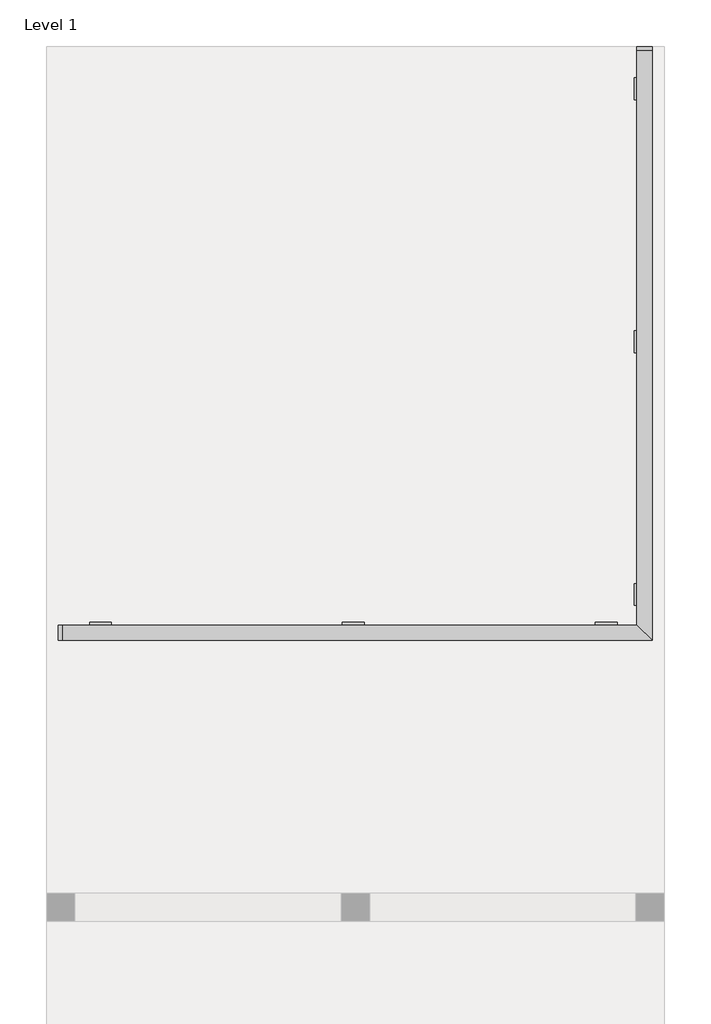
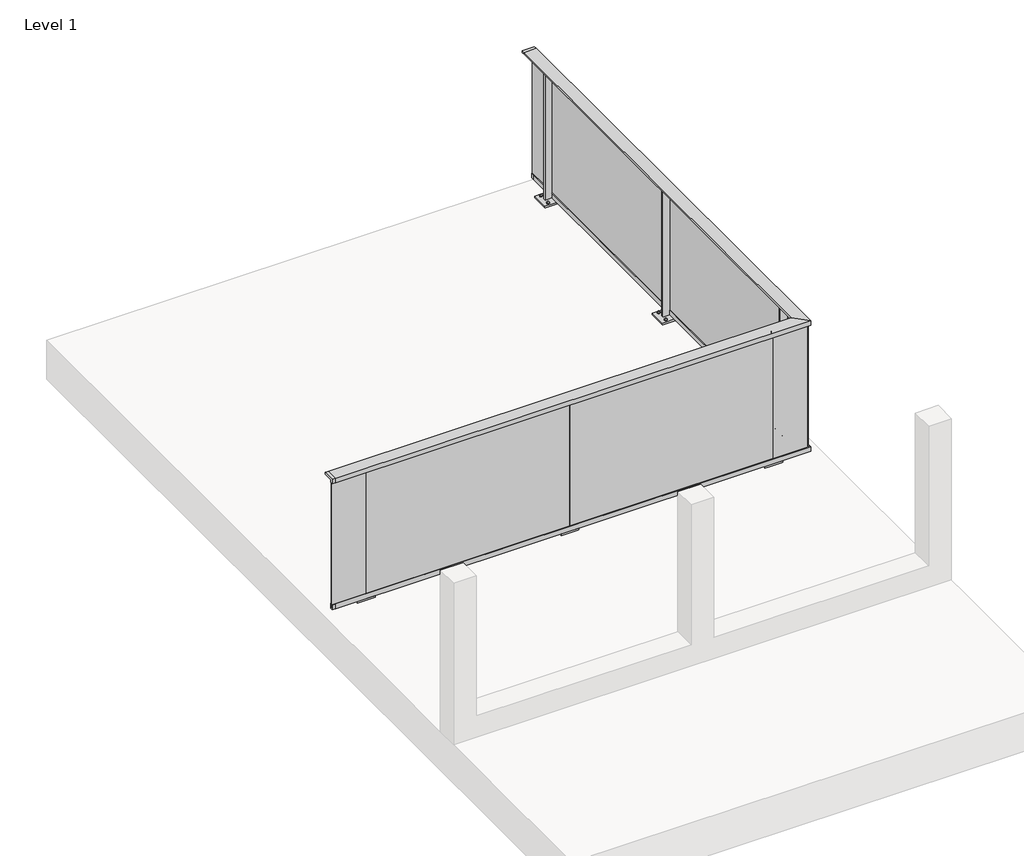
# One storey, part 2 of 2: 1 railing.
"""IFC4 building model written with IfcOpenShell, lengths in millimetres."""

import ifcopenshell
import ifcopenshell.guid

model = None  # the IFC model being written
_history = None  # IfcOwnerHistory: only IFC2X3 demands one
_inside = {}  # id of a spatial element -> (the spatial element, [elements in it])
_under = {}  # id of a project, library or spatial element -> (it, [spatial elements below it])
_declared = {}  # id of a project -> (the project, [libraries it declares])
_typed = {}  # id of a type object -> (the type object, [elements of that type])
_made_of = {}  # id of a material, layer set ... -> (it, [elements and type objects made of it])


def new_model(schema):
    """Start an empty IFC model of exactly this schema.

    Asked for "IFC4X3", IfcOpenShell would pick the latest addendum, in which some entities
    have other attributes; the version numbers below select the first issue.
    IFC2X3 requires an IfcOwnerHistory on every rooted entity: one is made here for all.
    """
    global model, _history
    if schema == "IFC4X3":
        model = ifcopenshell.file(schema_version=(4, 3, 0, 0))
    else:
        model = ifcopenshell.file(schema=schema)
    _inside.clear()
    _under.clear()
    _declared.clear()
    _typed.clear()
    _made_of.clear()
    _history = None
    if model.schema == "IFC2X3":
        org = make("IfcOrganization", Name="unknown")
        user = make(
            "IfcPersonAndOrganization",
            ThePerson=make("IfcPerson", FamilyName="unknown"),
            TheOrganization=org,
        )
        app = make(
            "IfcApplication",
            ApplicationDeveloper=org,
            Version="unknown",
            ApplicationFullName="unknown",
            ApplicationIdentifier="unknown",
        )
        _history = make(
            "IfcOwnerHistory",
            OwningUser=user,
            OwningApplication=app,
            ChangeAction="ADDED",
            CreationDate=0,
        )
    return model


def make(cls, **values):
    """One entity of the class cls with the attributes given. An attribute that is None is left unset."""
    return model.create_entity(
        cls, **{name: value for name, value in values.items() if value is not None}
    )


def rooted(cls, **values):
    """An entity with a GlobalId (a new one), such as an element, a storey or a relation."""
    return make(cls, GlobalId=ifcopenshell.guid.new(), OwnerHistory=_history, **values)


def si_unit(unit_type, name, prefix=None):
    """IfcSIUnit, for example si_unit("LENGTHUNIT", "METRE", prefix="MILLI")."""
    return make("IfcSIUnit", UnitType=unit_type, Prefix=prefix, Name=name)


def assignment(units):
    """IfcUnitAssignment: the units of a project."""
    return None if units is None else make("IfcUnitAssignment", Units=units)


def point(xyz):
    """IfcCartesianPoint."""
    return None if xyz is None else make("IfcCartesianPoint", Coordinates=xyz)


def direction(xyz):
    """IfcDirection."""
    return None if xyz is None else make("IfcDirection", DirectionRatios=xyz)


def frame(location, z_axis=None, x_axis=None):
    """IfcAxis2Placement3D, a coordinate frame: its origin and axes. An axis left out is left unset."""
    return make(
        "IfcAxis2Placement3D",
        Location=point(location),
        Axis=direction(z_axis),
        RefDirection=direction(x_axis),
    )


def frame_2d(location, x_axis=None):
    """IfcAxis2Placement2D, a coordinate frame in the plane: its origin and x axis."""
    return make(
        "IfcAxis2Placement2D", Location=point(location), RefDirection=direction(x_axis)
    )


def origin():
    """The frame at (0, 0, 0) with its axes left unset."""
    return frame((0.0, 0.0, 0.0))


def origin_with_axes():
    """The frame at (0, 0, 0) with the z axis (0, 0, 1) and the x axis (1, 0, 0) written out."""
    return frame((0.0, 0.0, 0.0), z_axis=(0.0, 0.0, 1.0), x_axis=(1.0, 0.0, 0.0))


def place(relative_to, where):
    """IfcLocalPlacement: puts the frame where relative to a parent placement (None: the world)."""
    return make(
        "IfcLocalPlacement", PlacementRelTo=relative_to, RelativePlacement=where
    )


def context(
    kind, dimensions, precision=None, world=None, true_north=None, identifier=None
):
    """IfcGeometricRepresentationContext, for example the 3D "Model" context."""
    return make(
        "IfcGeometricRepresentationContext",
        ContextIdentifier=identifier,
        ContextType=kind,
        CoordinateSpaceDimension=dimensions,
        Precision=precision,
        WorldCoordinateSystem=world,
        TrueNorth=true_north,
    )


def project(units=None, contexts=None):
    """IfcProject with its units and contexts."""
    return rooted(
        "IfcProject",
        Name="project",
        RepresentationContexts=contexts,
        UnitsInContext=assignment(units),
    )


def spatial(cls, under=None, at=None, **own):
    """A site, building, storey or space (cls), placed at a placement, below another one or the project."""
    s = rooted(cls, ObjectPlacement=at, **own)
    if under is not None:
        _under.setdefault(under.id(), (under, []))[1].append(s)
    return s


def polyline(points):
    """IfcPolyline through the points."""
    return make("IfcPolyline", Points=[point(p) for p in points])


def circle_curve(where, radius):
    """IfcCircle in the frame where."""
    return make("IfcCircle", Position=where, Radius=radius)


def ellipse_curve(where, semi_axis1, semi_axis2):
    """IfcEllipse in the frame where."""
    return make(
        "IfcEllipse", Position=where, SemiAxis1=semi_axis1, SemiAxis2=semi_axis2
    )


def trimmed(basis, trim1, trim2, sense, master):
    """IfcTrimmedCurve: the piece of a basis curve between two trims."""
    return make(
        "IfcTrimmedCurve",
        BasisCurve=basis,
        Trim1=trim1,
        Trim2=trim2,
        SenseAgreement=sense,
        MasterRepresentation=master,
    )


def segment(curve, same_sense, transition):
    """IfcCompositeCurveSegment."""
    return make(
        "IfcCompositeCurveSegment",
        Transition=transition,
        SameSense=same_sense,
        ParentCurve=curve,
    )


def composite_curve(segments, self_intersect=None):
    """IfcCompositeCurve: segments joined end to end."""
    return make("IfcCompositeCurve", Segments=segments, SelfIntersect=self_intersect)


def outline(outer, holes=None, kind="AREA"):
    """IfcArbitraryClosedProfileDef: a profile drawn as a closed curve; with holes, ...WithVoids."""
    if holes is None:
        return make("IfcArbitraryClosedProfileDef", ProfileType=kind, OuterCurve=outer)
    return make(
        "IfcArbitraryProfileDefWithVoids",
        ProfileType=kind,
        OuterCurve=outer,
        InnerCurves=holes,
    )


def extrude(swept, where, along, depth):
    """IfcExtrudedAreaSolid: the profile swept, set in the frame where, extruded along a direction by depth."""
    return make(
        "IfcExtrudedAreaSolid",
        SweptArea=swept,
        Position=where,
        ExtrudedDirection=direction(along),
        Depth=depth,
    )


def faces_of(points, faces, orient=None, outer=None):
    """IfcFace entities. A face is a list of loops; a loop is a list of indices into points, from 0.

    orient and outer hold one flag for each loop. By default every Orientation is true, the
    first loop of a face is its IfcFaceOuterBound and the others are IfcFaceBound.
    """
    made = []
    for i, loops in enumerate(faces):
        bounds = []
        for j, loop in enumerate(loops):
            is_outer = j == 0 if outer is None else outer[i][j]
            bounds.append(
                make(
                    "IfcFaceOuterBound" if is_outer else "IfcFaceBound",
                    Bound=make("IfcPolyLoop", Polygon=[points[k] for k in loop]),
                    Orientation=True if orient is None else orient[i][j],
                )
            )
        made.append(make("IfcFace", Bounds=bounds))
    return made


def faceted_brep(points, faces, orient=None, outer=None, voids=None):
    """IfcFacetedBrep: a solid bounded by flat faces; with voids (closed shells), ...WithVoids."""
    shared = [point(p) for p in points]
    hull = make("IfcClosedShell", CfsFaces=faces_of(shared, faces, orient, outer))
    if voids is None:
        return make("IfcFacetedBrep", Outer=hull)
    return make(
        "IfcFacetedBrepWithVoids",
        Outer=hull,
        Voids=[
            make(cls, CfsFaces=faces_of(shared, fs, o, b)) for cls, fs, o, b in voids
        ],
    )


def shape(context_of_items, identifier, shape_type, items):
    """IfcShapeRepresentation: the items that make up one representation, for example the "Body"."""
    return make(
        "IfcShapeRepresentation",
        ContextOfItems=context_of_items,
        RepresentationIdentifier=identifier,
        RepresentationType=shape_type,
        Items=items,
    )


def made_of(thing, what):
    """Note that an element or type object is made of a material, layer set ...; save() writes the relation."""
    if what is not None:
        _made_of.setdefault(what.id(), (what, []))[1].append(thing)
    return thing


def element(
    cls,
    number,
    at=None,
    inside=None,
    cuts=None,
    type_object=None,
    material=None,
    context=None,
    identifier="Body",
    shape_type=None,
    held_by="IfcProductDefinitionShape",
    body=None,
    shapes=None,
    **own,
):
    """One element of the class cls, such as IfcWall. Its Tag is "e" and its number.

    at: its placement. inside: the storey or other place that contains it. cuts: it is an
    opening in that element (IfcRelVoidsElement). A single representation is given by context,
    identifier, shape_type and body (its items); several are given by shapes. held_by: the class
    of the entity that holds the representations. save() writes the other relations.
    """
    e = rooted(cls, Tag="e%d" % number, ObjectPlacement=at, **own)
    if body is not None:
        shapes = [shape(context, identifier, shape_type, body)]
    if shapes is not None:
        e.Representation = make(held_by, Representations=shapes)
    if inside is not None:
        _inside.setdefault(inside.id(), (inside, []))[1].append(e)
    if cuts is not None:
        rooted(
            "IfcRelVoidsElement", RelatingBuildingElement=cuts, RelatedOpeningElement=e
        )
    if type_object is not None:
        _typed.setdefault(type_object.id(), (type_object, []))[1].append(e)
    return made_of(e, material)


def aggregate(whole, parts):
    """IfcRelAggregates: a whole, such as a stair, and the parts it consists of."""
    return rooted("IfcRelAggregates", RelatingObject=whole, RelatedObjects=parts)


def save(model, path):
    """Write the relations noted so far, then the file.

    IfcRelAggregates (storeys below a building ...), IfcRelContainedInSpatialStructure (elements
    in a storey), IfcRelDefinesByType, IfcRelAssociatesMaterial and IfcRelDeclares: one each for
    every whole, place, type object, material and project.
    """
    for whole, parts in _under.values():
        aggregate(whole, parts)
    for where, things in _inside.values():
        rooted(
            "IfcRelContainedInSpatialStructure",
            RelatedElements=things,
            RelatingStructure=where,
        )
    for kind, things in _typed.values():
        rooted("IfcRelDefinesByType", RelatedObjects=things, RelatingType=kind)
    for what, things in _made_of.values():
        rooted("IfcRelAssociatesMaterial", RelatedObjects=things, RelatingMaterial=what)
    for by, libraries in _declared.values():
        rooted("IfcRelDeclares", RelatingContext=by, RelatedDefinitions=libraries)
    model.write(path)


def plane_surface(at):
    """IfcPlane: the flat surface through the origin of the frame at, square to its z axis."""
    return make("IfcPlane", Position=at)


def revolved_surface(curve, axis_point, axis_direction):
    """IfcSurfaceOfRevolution: the curve turned about the line through axis_point along axis_direction."""
    return make(
        "IfcSurfaceOfRevolution",
        SweptCurve=make("IfcArbitraryOpenProfileDef", ProfileType="CURVE", Curve=curve),
        AxisPosition=make("IfcAxis1Placement", Location=point(axis_point), Axis=direction(axis_direction)),
    )


def advanced_brep(points, edges, surfaces, faces):
    """IfcAdvancedBrep: a solid bounded by faces that lie on surfaces and meet in shared edges.

    An edge is (start, end): straight between two places in points (the first is 0);
    or (start, end, curve); or (start, end, curve, False) where it runs against its curve.
    A face is (place in surfaces, loops), or (place, loops, False) where it looks against
    its surface's normal. A loop lists edges by number (the first is 1), with a minus sign
    where the edge is run from its end to its start. The first loop is the outer one.
    """
    corners = [point(p) for p in points]
    vertices = [make("IfcVertexPoint", VertexGeometry=c) for c in corners]
    made = []
    for start, end, *more in edges:
        made.append(
            make(
                "IfcEdgeCurve",
                EdgeStart=vertices[start],
                EdgeEnd=vertices[end],
                EdgeGeometry=more[0] if more else make("IfcPolyline", Points=[corners[start], corners[end]]),
                SameSense=more[1] if len(more) > 1 else True,
            )
        )
    hull = []
    for where, loops, *sense in faces:
        bounds = []
        for j, loop in enumerate(loops):
            ring = [make("IfcOrientedEdge", EdgeElement=made[abs(k) - 1], Orientation=k > 0) for k in loop]
            bounds.append(
                make(
                    "IfcFaceOuterBound" if j == 0 else "IfcFaceBound",
                    Bound=make("IfcEdgeLoop", EdgeList=ring),
                    Orientation=True,
                )
            )
        hull.append(make("IfcAdvancedFace", Bounds=bounds, FaceSurface=surfaces[where], SameSense=sense[0] if sense else True))
    return make("IfcAdvancedBrep", Outer=make("IfcClosedShell", CfsFaces=hull))


model = new_model("IFC4")

# Units and contexts
model_context = context("Model", 3, world=origin())
ifc_project = project(units=[si_unit("LENGTHUNIT", "METRE", prefix="MILLI")], contexts=[model_context])

# Site, building, storey
site = spatial("IfcSite", under=ifc_project)
building = spatial("IfcBuilding", under=site)
storey = spatial("IfcBuildingStorey", under=building, Name="Level 1", Elevation=0.0)

# Railing
placement = place(None, origin())
element("IfcRailing", 1, ObjectType="Klair Garde-Corps - Pose Sur Dalle", at=placement, inside=storey, context=model_context, shape_type="SolidModel", body=[
    faceted_brep([(-13856.6075858, 4901.5410088, 15.0), (-13856.6075858, 4921.5410088, 15.0), (-10381.0075858, 4921.5410088, 15.0), (-10361.0075858, 4901.5410088, 15.0), (-13856.6075858, 4901.5410088, 52.0), (-10361.0075858, 4901.5410088, 52.0), (-13856.6075858, 4906.5410088, 52.0), (-10366.0075858, 4906.5410088, 52.0), (-13856.6075858, 4906.5410088, 29.0), (-10366.0075858, 4906.5410088, 29.0), (-13856.6075858, 4916.5410088, 29.0), (-10376.0075858, 4916.5410088, 29.0), (-13856.6075858, 4916.5410088, 52.0), (-10376.0075858, 4916.5410088, 52.0), (-13856.6075858, 4921.5410088, 52.0), (-10381.0075858, 4921.5410088, 52.0), (-10381.0075858, 8397.1410088, 15.0), (-10361.0075858, 8397.1410088, 15.0), (-10361.0075858, 8397.1410088, 52.0), (-10366.0075858, 8397.1410088, 52.0), (-10366.0075858, 8397.1410088, 29.0), (-10376.0075858, 8397.1410088, 29.0), (-10376.0075858, 8397.1410088, 52.0), (-10381.0075858, 8397.1410088, 52.0), (-13881.6075858, 4921.5410088, 15.0), (-13881.6075858, 4901.5410088, 15.0), (-13881.6075858, 4901.5410088, 52.0), (-13881.6075858, 4906.5410088, 52.0), (-13881.6075858, 4906.5410088, 29.0), (-13881.6075858, 4916.5410088, 29.0), (-13881.6075858, 4916.5410088, 52.0), (-13881.6075858, 4921.5410088, 52.0), (-10381.0075858, 8422.1410088, 15.0), (-10381.0075858, 8422.1410088, 52.0), (-10376.0075858, 8422.1410088, 52.0), (-10376.0075858, 8422.1410088, 29.0), (-10366.0075858, 8422.1410088, 29.0), (-10366.0075858, 8422.1410088, 52.0), (-10361.0075858, 8422.1410088, 52.0), (-10361.0075858, 8422.1410088, 15.0)], [[[0, 1, 2, 3]], [[4, 0, 3, 5]], [[6, 4, 5, 7]], [[8, 6, 7, 9]], [[10, 8, 9, 11]], [[12, 10, 11, 13]], [[14, 12, 13, 15]], [[1, 14, 15, 2]], [[3, 2, 16, 17]], [[5, 3, 17, 18]], [[7, 5, 18, 19]], [[9, 7, 19, 20]], [[11, 9, 20, 21]], [[13, 11, 21, 22]], [[15, 13, 22, 23]], [[2, 15, 23, 16]], [[24, 25, 26, 27, 28, 29, 30, 31]], [[25, 24, 1, 0]], [[26, 25, 0, 4]], [[27, 26, 4, 6]], [[28, 27, 6, 8]], [[29, 28, 8, 10]], [[30, 29, 10, 12]], [[31, 30, 12, 14]], [[24, 31, 14, 1]], [[32, 33, 34, 35, 36, 37, 38, 39]], [[17, 16, 32, 39]], [[18, 17, 39, 38]], [[19, 18, 38, 37]], [[20, 19, 37, 36]], [[21, 20, 36, 35]], [[22, 21, 35, 34]], [[23, 22, 34, 33]], [[16, 23, 33, 32]]]),
    faceted_brep([(-13856.6075858, 4991.0410088, 1030.0), (-13856.6075858, 4901.0410088, 1030.0), (-10360.5075858, 4901.0410088, 1030.0), (-10450.5075858, 4991.0410088, 1030.0), (-13856.6075858, 4991.0410088, 1015.0), (-10450.5075858, 4991.0410088, 1015.0), (-13856.6075858, 4921.5410088, 1015.0), (-10381.0075858, 4921.5410088, 1015.0), (-13856.6075858, 4901.0410088, 996.0), (-10360.5075858, 4901.0410088, 996.0), (-13856.6075858, 4906.5410088, 996.0), (-10366.0075858, 4906.5410088, 996.0), (-13856.6075858, 4921.5410088, 996.0), (-10381.0075858, 4921.5410088, 996.0), (-13856.6075858, 4916.5410088, 996.0), (-10376.0075858, 4916.5410088, 996.0), (-13856.6075858, 4916.5410088, 1018.0), (-10376.0075858, 4916.5410088, 1018.0), (-13856.6075858, 4906.5410088, 1018.0), (-10366.0075858, 4906.5410088, 1018.0), (-10360.5075858, 8397.1410088, 1030.0), (-10450.5075858, 8397.1410088, 1030.0), (-10450.5075858, 8397.1410088, 1015.0), (-10381.0075858, 8397.1410088, 1015.0), (-10381.0075858, 8397.1410088, 996.0), (-10376.0075858, 8397.1410088, 996.0), (-10376.0075858, 8397.1410088, 1018.0), (-10366.0075858, 8397.1410088, 1018.0), (-10366.0075858, 8397.1410088, 996.0), (-10360.5075858, 8397.1410088, 996.0), (-13881.6075858, 4901.0410088, 1030.0), (-13881.6075858, 4991.0410088, 1030.0), (-13881.6075858, 4991.0410088, 1015.0), (-13881.6075858, 4921.5410088, 1015.0), (-13881.6075858, 4921.5410088, 996.0), (-13881.6075858, 4916.5410088, 996.0), (-13881.6075858, 4916.5410088, 1018.0), (-13881.6075858, 4906.5410088, 1018.0), (-13881.6075858, 4906.5410088, 996.0), (-13881.6075858, 4901.0410088, 996.0), (-10360.5075858, 8422.1410088, 1030.0), (-10360.5075858, 8422.1410088, 996.0), (-10366.0075858, 8422.1410088, 996.0), (-10366.0075858, 8422.1410088, 1018.0), (-10376.0075858, 8422.1410088, 1018.0), (-10376.0075858, 8422.1410088, 996.0), (-10381.0075858, 8422.1410088, 996.0), (-10381.0075858, 8422.1410088, 1015.0), (-10450.5075858, 8422.1410088, 1015.0), (-10450.5075858, 8422.1410088, 1030.0)], [[[0, 1, 2, 3]], [[4, 0, 3, 5]], [[6, 4, 5, 7]], [[1, 8, 9, 2]], [[8, 10, 11, 9]], [[12, 6, 7, 13]], [[14, 12, 13, 15]], [[16, 14, 15, 17]], [[18, 16, 17, 19]], [[10, 18, 19, 11]], [[3, 2, 20, 21]], [[5, 3, 21, 22]], [[7, 5, 22, 23]], [[13, 7, 23, 24]], [[15, 13, 24, 25]], [[17, 15, 25, 26]], [[19, 17, 26, 27]], [[11, 19, 27, 28]], [[9, 11, 28, 29]], [[2, 9, 29, 20]], [[30, 31, 32, 33, 34, 35, 36, 37, 38, 39]], [[31, 30, 1, 0]], [[32, 31, 0, 4]], [[33, 32, 4, 6]], [[34, 33, 6, 12]], [[35, 34, 12, 14]], [[36, 35, 14, 16]], [[37, 36, 16, 18]], [[38, 37, 18, 10]], [[39, 38, 10, 8]], [[30, 39, 8, 1]], [[40, 41, 42, 43, 44, 45, 46, 47, 48, 49]], [[21, 20, 40, 49]], [[22, 21, 49, 48]], [[23, 22, 48, 47]], [[24, 23, 47, 46]], [[25, 24, 46, 45]], [[26, 25, 45, 44]], [[27, 26, 44, 43]], [[28, 27, 43, 42]], [[29, 28, 42, 41]], [[20, 29, 41, 40]]]),
    extrude(outline(polyline([(-10365.9827757, 8172.1410088), (-10375.9827757, 8172.1410088), (-10375.9827757, 8422.1410088), (-10365.9827757, 8422.1410088), (-10365.9827757, 8172.1410088)])), frame((0.0, 0.0, 29.0), z_axis=(0.0, 0.0, 1.0), x_axis=(1.0, 0.0, 0.0)), (0.0, 0.0, 1.0), 967.0),
    extrude(outline(polyline([(-10365.9827757, 4922.1410088), (-10375.9827757, 4922.1410088), (-10375.9827757, 5172.1410088), (-10365.9827757, 5172.1410088), (-10365.9827757, 4922.1410088)])), frame((0.0, 0.0, 29.0), z_axis=(0.0, 0.0, 1.0), x_axis=(1.0, 0.0, 0.0)), (0.0, 0.0, 1.0), 967.0),
    advanced_brep(
    [(-10422.0163411, 8217.1410088, 20.0), (-10439.9988304, 8217.1410088, 20.0), (-10431.0075858, 8217.1410088, 20.0), (-10431.0075858, 8217.1410088, 28.9912446)],
    [
        (0, 1, circle_curve(frame((-10431.0075858, 8217.1410088, 20.0), z_axis=(0.0, 0.0, -1.0), x_axis=(-1.0, 0.0, 0.0)), 8.9912446)),
        (1, 2),
        (2, 0),
        (1, 0, circle_curve(frame((-10431.0075858, 8217.1410088, 20.0), z_axis=(0.0, 0.0, -1.0), x_axis=(-1.0, 0.0, 0.0)), 8.9912446)),
        (3, 1, circle_curve(frame((-10431.0075858, 8217.1410088, 20.0), z_axis=(0.0, -1.0, 0.0), x_axis=(1.0, 0.0, 0.0)), 8.9912446)),
        (0, 3, circle_curve(frame((-10431.0075858, 8217.1410088, 20.0), z_axis=(0.0, -1.0, 0.0), x_axis=(-1.0, 0.0, 0.0)), 8.9912446)),
    ],
    [
        plane_surface(frame((-10431.0075858, 8217.1410088, 20.0), z_axis=(0.0, 0.0, -1.0), x_axis=(-1.0, 0.0, 0.0))),
        revolved_surface(trimmed(ellipse_curve(frame((-10431.0075858, 8217.1410088, 20.0), z_axis=(0.0, 1.0, 0.0), x_axis=(1.0, 0.0, 0.0)), 8.9912446, 8.9912446), [point((-10439.9988304, 8217.1410088, 20.0))], [point((-10431.0075858, 8217.1410088, 28.9912446))], True, "CARTESIAN"), (-10431.0075858, 8217.1410088, 20.0), (0.0, 0.0, 1.0)),
    ],
    [
        (0, [[1, 2, 3]]),
        (0, [[4, -3, -2]]),
        (1, [[5, -1, 6]]),
        (1, [[-6, -4, -5]]),
    ],
),
    advanced_brep(
    [(-10431.0075858, 8127.1410088, 20.0), (-10439.9988304, 8127.1410088, 20.0), (-10422.0163411, 8127.1410088, 20.0), (-10431.0075858, 8127.1410088, 28.9912446)],
    [
        (0, 1),
        (1, 2, circle_curve(frame((-10431.0075858, 8127.1410088, 20.0), z_axis=(0.0, 0.0, -1.0), x_axis=(-1.0, 0.0, 0.0)), 8.9912446)),
        (2, 0),
        (2, 1, circle_curve(frame((-10431.0075858, 8127.1410088, 20.0), z_axis=(0.0, 0.0, -1.0), x_axis=(-1.0, 0.0, 0.0)), 8.9912446)),
        (1, 3, circle_curve(frame((-10431.0075858, 8127.1410088, 20.0), z_axis=(0.0, 1.0, 0.0), x_axis=(1.0, 0.0, 0.0)), 8.9912446)),
        (3, 2, circle_curve(frame((-10431.0075858, 8127.1410088, 20.0), z_axis=(0.0, 1.0, 0.0), x_axis=(-1.0, 0.0, 0.0)), 8.9912446)),
    ],
    [
        plane_surface(frame((-10431.0075858, 8127.1410088, 20.0), z_axis=(0.0, 0.0, -1.0), x_axis=(-1.0, 0.0, 0.0))),
        revolved_surface(trimmed(ellipse_curve(frame((-10431.0075858, 8127.1410088, 20.0), z_axis=(0.0, -1.0, 0.0), x_axis=(1.0, 0.0, 0.0)), 8.9912446, 8.9912446), [point((-10431.0075858, 8127.1410088, 28.9912446))], [point((-10439.9988304, 8127.1410088, 20.0))], True, "CARTESIAN"), (-10431.0075858, 8127.1410088, 20.0), (0.0, 0.0, -1.0)),
    ],
    [
        (0, [[1, 2, 3]]),
        (0, [[-3, 4, -1]]),
        (1, [[-2, 5, 6]]),
        (1, [[-4, -6, -5]]),
    ],
),
    extrude(outline(polyline([(-10438.1896667, 8119.9589279), (-10441.164582, 8127.1410088), (-10438.1896667, 8134.3230898), (-10431.0075858, 8137.2980051), (-10423.8255048, 8134.3230898), (-10420.8505895, 8127.1410088), (-10423.8255048, 8119.9589279), (-10431.0075858, 8116.9840126), (-10438.1896667, 8119.9589279)])), frame((0.0, 0.0, 15.0), z_axis=(0.0, 0.0, 1.0), x_axis=(1.0, 0.0, 0.0)), (0.0, 0.0, 1.0), 5.0),
    extrude(outline(polyline([(-10438.1896667, 8224.3230898), (-10431.0075858, 8227.2980051), (-10423.8255048, 8224.3230898), (-10420.8505895, 8217.1410088), (-10423.8255048, 8209.9589279), (-10431.0075858, 8206.9840126), (-10438.1896667, 8209.9589279), (-10441.164582, 8217.1410088), (-10438.1896667, 8224.3230898)])), frame((0.0, 0.0, 15.0), z_axis=(0.0, 0.0, 1.0), x_axis=(1.0, 0.0, 0.0)), (0.0, 0.0, 1.0), 5.0),
    extrude(outline(polyline([(-10361.0075858, 8237.1410088), (-10361.0075858, 8107.1410088), (-10466.0075858, 8107.1410088), (-10466.0075858, 8237.1410088), (-10361.0075858, 8237.1410088)])), origin_with_axes(), (0.0, 0.0, 1.0), 15.0),
    extrude(outline(polyline([(-10431.0075858, 8164.6410088), (-10431.0075858, 8179.6410088), (-10381.0075858, 8179.6410088), (-10381.0075858, 8164.6410088), (-10431.0075858, 8164.6410088)]), holes=[composite_curve([segment(trimmed(circle_curve(frame_2d((-10406.0075858, 8172.1410088)), 5.0234856), [point((-10400.9841001, 8172.1410088))], [point((-10411.0310714, 8172.1410088))], True, "CARTESIAN"), True, "CONTINUOUS"), segment(trimmed(circle_curve(frame_2d((-10406.0075858, 8172.1410088)), 5.0234856), [point((-10411.0310714, 8172.1410088))], [point((-10400.9841001, 8172.1410088))], True, "CARTESIAN"), True, "CONTINUOUS")], self_intersect=False)]), frame((0.0, 0.0, 15.0), z_axis=(0.0, 0.0, 1.0), x_axis=(1.0, 0.0, 0.0)), (0.0, 0.0, 1.0), 1000.0),
    extrude(outline(polyline([(-10375.9827757, 6672.1410088), (-10375.9827757, 8172.1410088), (-10365.9827757, 8172.1410088), (-10365.9827757, 6672.1410088), (-10375.9827757, 6672.1410088)])), frame((0.0, 0.0, 29.0), z_axis=(0.0, 0.0, 1.0), x_axis=(1.0, 0.0, 0.0)), (0.0, 0.0, 1.0), 989.0),
    advanced_brep(
    [(-10422.0163411, 6717.1410088, 20.0), (-10439.9988304, 6717.1410088, 20.0), (-10431.0075858, 6717.1410088, 20.0), (-10431.0075858, 6717.1410088, 28.9912446)],
    [
        (0, 1, circle_curve(frame((-10431.0075858, 6717.1410088, 20.0), z_axis=(0.0, 0.0, -1.0), x_axis=(-1.0, 0.0, 0.0)), 8.9912446)),
        (1, 2),
        (2, 0),
        (1, 0, circle_curve(frame((-10431.0075858, 6717.1410088, 20.0), z_axis=(0.0, 0.0, -1.0), x_axis=(-1.0, 0.0, 0.0)), 8.9912446)),
        (3, 1, circle_curve(frame((-10431.0075858, 6717.1410088, 20.0), z_axis=(0.0, -1.0, 0.0), x_axis=(1.0, 0.0, 0.0)), 8.9912446)),
        (0, 3, circle_curve(frame((-10431.0075858, 6717.1410088, 20.0), z_axis=(0.0, -1.0, 0.0), x_axis=(-1.0, 0.0, 0.0)), 8.9912446)),
    ],
    [
        plane_surface(frame((-10431.0075858, 6717.1410088, 20.0), z_axis=(0.0, 0.0, -1.0), x_axis=(-1.0, 0.0, 0.0))),
        revolved_surface(trimmed(ellipse_curve(frame((-10431.0075858, 6717.1410088, 20.0), z_axis=(0.0, 1.0, 0.0), x_axis=(1.0, 0.0, 0.0)), 8.9912446, 8.9912446), [point((-10439.9988304, 6717.1410088, 20.0))], [point((-10431.0075858, 6717.1410088, 28.9912446))], True, "CARTESIAN"), (-10431.0075858, 6717.1410088, 20.0), (0.0, 0.0, 1.0)),
    ],
    [
        (0, [[1, 2, 3]]),
        (0, [[4, -3, -2]]),
        (1, [[5, -1, 6]]),
        (1, [[-6, -4, -5]]),
    ],
),
    advanced_brep(
    [(-10431.0075858, 6627.1410088, 20.0), (-10439.9988304, 6627.1410088, 20.0), (-10422.0163411, 6627.1410088, 20.0), (-10431.0075858, 6627.1410088, 28.9912446)],
    [
        (0, 1),
        (1, 2, circle_curve(frame((-10431.0075858, 6627.1410088, 20.0), z_axis=(0.0, 0.0, -1.0), x_axis=(-1.0, 0.0, 0.0)), 8.9912446)),
        (2, 0),
        (2, 1, circle_curve(frame((-10431.0075858, 6627.1410088, 20.0), z_axis=(0.0, 0.0, -1.0), x_axis=(-1.0, 0.0, 0.0)), 8.9912446)),
        (1, 3, circle_curve(frame((-10431.0075858, 6627.1410088, 20.0), z_axis=(0.0, 1.0, 0.0), x_axis=(1.0, 0.0, 0.0)), 8.9912446)),
        (3, 2, circle_curve(frame((-10431.0075858, 6627.1410088, 20.0), z_axis=(0.0, 1.0, 0.0), x_axis=(-1.0, 0.0, 0.0)), 8.9912446)),
    ],
    [
        plane_surface(frame((-10431.0075858, 6627.1410088, 20.0), z_axis=(0.0, 0.0, -1.0), x_axis=(-1.0, 0.0, 0.0))),
        revolved_surface(trimmed(ellipse_curve(frame((-10431.0075858, 6627.1410088, 20.0), z_axis=(0.0, -1.0, 0.0), x_axis=(1.0, 0.0, 0.0)), 8.9912446, 8.9912446), [point((-10431.0075858, 6627.1410088, 28.9912446))], [point((-10439.9988304, 6627.1410088, 20.0))], True, "CARTESIAN"), (-10431.0075858, 6627.1410088, 20.0), (0.0, 0.0, -1.0)),
    ],
    [
        (0, [[1, 2, 3]]),
        (0, [[-3, 4, -1]]),
        (1, [[-2, 5, 6]]),
        (1, [[-4, -6, -5]]),
    ],
),
    extrude(outline(polyline([(-10438.1896667, 6619.9589279), (-10441.164582, 6627.1410088), (-10438.1896667, 6634.3230898), (-10431.0075858, 6637.2980051), (-10423.8255048, 6634.3230898), (-10420.8505895, 6627.1410088), (-10423.8255048, 6619.9589279), (-10431.0075858, 6616.9840126), (-10438.1896667, 6619.9589279)])), frame((0.0, 0.0, 15.0), z_axis=(0.0, 0.0, 1.0), x_axis=(1.0, 0.0, 0.0)), (0.0, 0.0, 1.0), 5.0),
    extrude(outline(polyline([(-10438.1896667, 6724.3230898), (-10431.0075858, 6727.2980051), (-10423.8255048, 6724.3230898), (-10420.8505895, 6717.1410088), (-10423.8255048, 6709.9589279), (-10431.0075858, 6706.9840126), (-10438.1896667, 6709.9589279), (-10441.164582, 6717.1410088), (-10438.1896667, 6724.3230898)])), frame((0.0, 0.0, 15.0), z_axis=(0.0, 0.0, 1.0), x_axis=(1.0, 0.0, 0.0)), (0.0, 0.0, 1.0), 5.0),
    extrude(outline(polyline([(-10361.0075858, 6737.1410088), (-10361.0075858, 6607.1410088), (-10466.0075858, 6607.1410088), (-10466.0075858, 6737.1410088), (-10361.0075858, 6737.1410088)])), origin_with_axes(), (0.0, 0.0, 1.0), 15.0),
    extrude(outline(polyline([(-10431.0075858, 6664.6410088), (-10431.0075858, 6679.6410088), (-10381.0075858, 6679.6410088), (-10381.0075858, 6664.6410088), (-10431.0075858, 6664.6410088)]), holes=[composite_curve([segment(trimmed(circle_curve(frame_2d((-10406.0075858, 6672.1410088)), 5.0234856), [point((-10400.9841001, 6672.1410088))], [point((-10411.0310714, 6672.1410088))], True, "CARTESIAN"), True, "CONTINUOUS"), segment(trimmed(circle_curve(frame_2d((-10406.0075858, 6672.1410088)), 5.0234856), [point((-10411.0310714, 6672.1410088))], [point((-10400.9841001, 6672.1410088))], True, "CARTESIAN"), True, "CONTINUOUS")], self_intersect=False)]), frame((0.0, 0.0, 15.0), z_axis=(0.0, 0.0, 1.0), x_axis=(1.0, 0.0, 0.0)), (0.0, 0.0, 1.0), 1000.0),
    extrude(outline(polyline([(-10375.9827757, 5172.1410088), (-10375.9827757, 6672.1410088), (-10365.9827757, 6672.1410088), (-10365.9827757, 5172.1410088), (-10375.9827757, 5172.1410088)])), frame((0.0, 0.0, 29.0), z_axis=(0.0, 0.0, 1.0), x_axis=(1.0, 0.0, 0.0)), (0.0, 0.0, 1.0), 989.0),
    advanced_brep(
    [(-10422.0163411, 5217.1410088, 20.0), (-10439.9988304, 5217.1410088, 20.0), (-10431.0075858, 5217.1410088, 20.0), (-10431.0075858, 5217.1410088, 28.9912446)],
    [
        (0, 1, circle_curve(frame((-10431.0075858, 5217.1410088, 20.0), z_axis=(0.0, 0.0, -1.0), x_axis=(-1.0, 0.0, 0.0)), 8.9912446)),
        (1, 2),
        (2, 0),
        (1, 0, circle_curve(frame((-10431.0075858, 5217.1410088, 20.0), z_axis=(0.0, 0.0, -1.0), x_axis=(-1.0, 0.0, 0.0)), 8.9912446)),
        (3, 1, circle_curve(frame((-10431.0075858, 5217.1410088, 20.0), z_axis=(0.0, -1.0, 0.0), x_axis=(1.0, 0.0, 0.0)), 8.9912446)),
        (0, 3, circle_curve(frame((-10431.0075858, 5217.1410088, 20.0), z_axis=(0.0, -1.0, 0.0), x_axis=(-1.0, 0.0, 0.0)), 8.9912446)),
    ],
    [
        plane_surface(frame((-10431.0075858, 5217.1410088, 20.0), z_axis=(0.0, 0.0, -1.0), x_axis=(-1.0, 0.0, 0.0))),
        revolved_surface(trimmed(ellipse_curve(frame((-10431.0075858, 5217.1410088, 20.0), z_axis=(0.0, 1.0, 0.0), x_axis=(1.0, 0.0, 0.0)), 8.9912446, 8.9912446), [point((-10439.9988304, 5217.1410088, 20.0))], [point((-10431.0075858, 5217.1410088, 28.9912446))], True, "CARTESIAN"), (-10431.0075858, 5217.1410088, 20.0), (0.0, 0.0, 1.0)),
    ],
    [
        (0, [[1, 2, 3]]),
        (0, [[4, -3, -2]]),
        (1, [[5, -1, 6]]),
        (1, [[-6, -4, -5]]),
    ],
),
    advanced_brep(
    [(-10431.0075858, 5127.1410088, 20.0), (-10439.9988304, 5127.1410088, 20.0), (-10422.0163411, 5127.1410088, 20.0), (-10431.0075858, 5127.1410088, 28.9912446)],
    [
        (0, 1),
        (1, 2, circle_curve(frame((-10431.0075858, 5127.1410088, 20.0), z_axis=(0.0, 0.0, -1.0), x_axis=(-1.0, 0.0, 0.0)), 8.9912446)),
        (2, 0),
        (2, 1, circle_curve(frame((-10431.0075858, 5127.1410088, 20.0), z_axis=(0.0, 0.0, -1.0), x_axis=(-1.0, 0.0, 0.0)), 8.9912446)),
        (1, 3, circle_curve(frame((-10431.0075858, 5127.1410088, 20.0), z_axis=(0.0, 1.0, 0.0), x_axis=(1.0, 0.0, 0.0)), 8.9912446)),
        (3, 2, circle_curve(frame((-10431.0075858, 5127.1410088, 20.0), z_axis=(0.0, 1.0, 0.0), x_axis=(-1.0, 0.0, 0.0)), 8.9912446)),
    ],
    [
        plane_surface(frame((-10431.0075858, 5127.1410088, 20.0), z_axis=(0.0, 0.0, -1.0), x_axis=(-1.0, 0.0, 0.0))),
        revolved_surface(trimmed(ellipse_curve(frame((-10431.0075858, 5127.1410088, 20.0), z_axis=(0.0, -1.0, 0.0), x_axis=(1.0, 0.0, 0.0)), 8.9912446, 8.9912446), [point((-10431.0075858, 5127.1410088, 28.9912446))], [point((-10439.9988304, 5127.1410088, 20.0))], True, "CARTESIAN"), (-10431.0075858, 5127.1410088, 20.0), (0.0, 0.0, -1.0)),
    ],
    [
        (0, [[1, 2, 3]]),
        (0, [[-3, 4, -1]]),
        (1, [[-2, 5, 6]]),
        (1, [[-4, -6, -5]]),
    ],
),
    extrude(outline(polyline([(-10438.1896667, 5119.9589279), (-10441.164582, 5127.1410088), (-10438.1896667, 5134.3230898), (-10431.0075858, 5137.2980051), (-10423.8255048, 5134.3230898), (-10420.8505895, 5127.1410088), (-10423.8255048, 5119.9589279), (-10431.0075858, 5116.9840126), (-10438.1896667, 5119.9589279)])), frame((0.0, 0.0, 15.0), z_axis=(0.0, 0.0, 1.0), x_axis=(1.0, 0.0, 0.0)), (0.0, 0.0, 1.0), 5.0),
    extrude(outline(polyline([(-10438.1896667, 5224.3230898), (-10431.0075858, 5227.2980051), (-10423.8255048, 5224.3230898), (-10420.8505895, 5217.1410088), (-10423.8255048, 5209.9589279), (-10431.0075858, 5206.9840126), (-10438.1896667, 5209.9589279), (-10441.164582, 5217.1410088), (-10438.1896667, 5224.3230898)])), frame((0.0, 0.0, 15.0), z_axis=(0.0, 0.0, 1.0), x_axis=(1.0, 0.0, 0.0)), (0.0, 0.0, 1.0), 5.0),
    extrude(outline(polyline([(-10361.0075858, 5237.1410088), (-10361.0075858, 5107.1410088), (-10466.0075858, 5107.1410088), (-10466.0075858, 5237.1410088), (-10361.0075858, 5237.1410088)])), origin_with_axes(), (0.0, 0.0, 1.0), 15.0),
    extrude(outline(polyline([(-10431.0075858, 5164.6410088), (-10431.0075858, 5179.6410088), (-10381.0075858, 5179.6410088), (-10381.0075858, 5164.6410088), (-10431.0075858, 5164.6410088)]), holes=[composite_curve([segment(trimmed(circle_curve(frame_2d((-10406.0075858, 5172.1410088)), 5.0234856), [point((-10400.9841001, 5172.1410088))], [point((-10411.0310714, 5172.1410088))], True, "CARTESIAN"), True, "CONTINUOUS"), segment(trimmed(circle_curve(frame_2d((-10406.0075858, 5172.1410088)), 5.0234856), [point((-10411.0310714, 5172.1410088))], [point((-10400.9841001, 5172.1410088))], True, "CARTESIAN"), True, "CONTINUOUS")], self_intersect=False)]), frame((0.0, 0.0, 15.0), z_axis=(0.0, 0.0, 1.0), x_axis=(1.0, 0.0, 0.0)), (0.0, 0.0, 1.0), 1000.0),
    extrude(outline(polyline([(-10631.6075858, 4906.5161987), (-10631.6075858, 4916.5161987), (-10381.6075858, 4916.5161987), (-10381.6075858, 4906.5161987), (-10631.6075858, 4906.5161987)])), frame((0.0, 0.0, 29.0), z_axis=(0.0, 0.0, 1.0), x_axis=(1.0, 0.0, 0.0)), (0.0, 0.0, 1.0), 967.0),
    extrude(outline(polyline([(-13881.6075858, 4906.5161987), (-13881.6075858, 4916.5161987), (-13631.6075858, 4916.5161987), (-13631.6075858, 4906.5161987), (-13881.6075858, 4906.5161987)])), frame((0.0, 0.0, 29.0), z_axis=(0.0, 0.0, 1.0), x_axis=(1.0, 0.0, 0.0)), (0.0, 0.0, 1.0), 967.0),
    advanced_brep(
    [(-10586.6075858, 4962.5497642, 20.0), (-10586.6075858, 4980.5322535, 20.0), (-10586.6075858, 4971.5410088, 20.0), (-10586.6075858, 4971.5410088, 28.9912446)],
    [
        (0, 1, circle_curve(frame((-10586.6075858, 4971.5410088, 20.0), z_axis=(0.0, 0.0, -1.0), x_axis=(0.0, 1.0, 0.0)), 8.9912446)),
        (1, 2),
        (2, 0),
        (1, 0, circle_curve(frame((-10586.6075858, 4971.5410088, 20.0), z_axis=(0.0, 0.0, -1.0), x_axis=(0.0, 1.0, 0.0)), 8.9912446)),
        (3, 1, circle_curve(frame((-10586.6075858, 4971.5410088, 20.0), z_axis=(-1.0, 0.0, 0.0), x_axis=(0.0, -1.0, 0.0)), 8.9912446)),
        (0, 3, circle_curve(frame((-10586.6075858, 4971.5410088, 20.0), z_axis=(-1.0, 0.0, 0.0), x_axis=(0.0, 1.0, 0.0)), 8.9912446)),
    ],
    [
        plane_surface(frame((-10586.6075858, 4971.5410088, 20.0), z_axis=(0.0, 0.0, -1.0), x_axis=(0.0, 1.0, 0.0))),
        revolved_surface(trimmed(ellipse_curve(frame((-10586.6075858, 4971.5410088, 20.0), z_axis=(1.0, 0.0, 0.0), x_axis=(0.0, -1.0, 0.0)), 8.9912446, 8.9912446), [point((-10586.6075858, 4980.5322535, 20.0))], [point((-10586.6075858, 4971.5410088, 28.9912446))], True, "CARTESIAN"), (-10586.6075858, 4971.5410088, 20.0), (0.0, 0.0, 1.0)),
    ],
    [
        (0, [[1, 2, 3]]),
        (0, [[4, -3, -2]]),
        (1, [[5, -1, 6]]),
        (1, [[-6, -4, -5]]),
    ],
),
    advanced_brep(
    [(-10676.6075858, 4971.5410088, 20.0), (-10676.6075858, 4980.5322535, 20.0), (-10676.6075858, 4962.5497642, 20.0), (-10676.6075858, 4971.5410088, 28.9912446)],
    [
        (0, 1),
        (1, 2, circle_curve(frame((-10676.6075858, 4971.5410088, 20.0), z_axis=(0.0, 0.0, -1.0), x_axis=(0.0, 1.0, 0.0)), 8.9912446)),
        (2, 0),
        (2, 1, circle_curve(frame((-10676.6075858, 4971.5410088, 20.0), z_axis=(0.0, 0.0, -1.0), x_axis=(0.0, 1.0, 0.0)), 8.9912446)),
        (1, 3, circle_curve(frame((-10676.6075858, 4971.5410088, 20.0), z_axis=(1.0, 0.0, 0.0), x_axis=(0.0, -1.0, 0.0)), 8.9912446)),
        (3, 2, circle_curve(frame((-10676.6075858, 4971.5410088, 20.0), z_axis=(1.0, 0.0, 0.0), x_axis=(0.0, 1.0, 0.0)), 8.9912446)),
    ],
    [
        plane_surface(frame((-10676.6075858, 4971.5410088, 20.0), z_axis=(0.0, 0.0, -1.0), x_axis=(0.0, 1.0, 0.0))),
        revolved_surface(trimmed(ellipse_curve(frame((-10676.6075858, 4971.5410088, 20.0), z_axis=(-1.0, 0.0, 0.0), x_axis=(0.0, -1.0, 0.0)), 8.9912446, 8.9912446), [point((-10676.6075858, 4971.5410088, 28.9912446))], [point((-10676.6075858, 4980.5322535, 20.0))], True, "CARTESIAN"), (-10676.6075858, 4971.5410088, 20.0), (0.0, 0.0, -1.0)),
    ],
    [
        (0, [[1, 2, 3]]),
        (0, [[-3, 4, -1]]),
        (1, [[-2, 5, 6]]),
        (1, [[-4, -6, -5]]),
    ],
),
    extrude(outline(polyline([(-10683.7896667, 4978.7230898), (-10676.6075858, 4981.6980051), (-10669.4255048, 4978.7230898), (-10666.4505895, 4971.5410088), (-10669.4255048, 4964.3589279), (-10676.6075858, 4961.3840126), (-10683.7896667, 4964.3589279), (-10686.764582, 4971.5410088), (-10683.7896667, 4978.7230898)])), frame((0.0, 0.0, 15.0), z_axis=(0.0, 0.0, 1.0), x_axis=(1.0, 0.0, 0.0)), (0.0, 0.0, 1.0), 5.0),
    extrude(outline(polyline([(-10579.4255048, 4978.7230898), (-10576.4505895, 4971.5410088), (-10579.4255048, 4964.3589279), (-10586.6075858, 4961.3840126), (-10593.7896667, 4964.3589279), (-10596.764582, 4971.5410088), (-10593.7896667, 4978.7230898), (-10586.6075858, 4981.6980051), (-10579.4255048, 4978.7230898)])), frame((0.0, 0.0, 15.0), z_axis=(0.0, 0.0, 1.0), x_axis=(1.0, 0.0, 0.0)), (0.0, 0.0, 1.0), 5.0),
    extrude(outline(polyline([(-10566.6075858, 4901.5410088), (-10696.6075858, 4901.5410088), (-10696.6075858, 5006.5410088), (-10566.6075858, 5006.5410088), (-10566.6075858, 4901.5410088)])), origin_with_axes(), (0.0, 0.0, 1.0), 15.0),
    extrude(outline(polyline([(-10639.1075858, 4971.5410088), (-10624.1075858, 4971.5410088), (-10624.1075858, 4921.5410088), (-10639.1075858, 4921.5410088), (-10639.1075858, 4971.5410088)]), holes=[composite_curve([segment(trimmed(circle_curve(frame_2d((-10631.6075858, 4946.5410088)), 5.0234856), [point((-10631.6075858, 4941.5175232))], [point((-10631.6075858, 4951.5644944))], True, "CARTESIAN"), True, "CONTINUOUS"), segment(trimmed(circle_curve(frame_2d((-10631.6075858, 4946.5410088)), 5.0234856), [point((-10631.6075858, 4951.5644944))], [point((-10631.6075858, 4941.5175232))], True, "CARTESIAN"), True, "CONTINUOUS")], self_intersect=False)]), frame((0.0, 0.0, 15.0), z_axis=(0.0, 0.0, 1.0), x_axis=(1.0, 0.0, 0.0)), (0.0, 0.0, 1.0), 1000.0),
    extrude(outline(polyline([(-12131.6075858, 4916.5161987), (-10631.6075858, 4916.5161987), (-10631.6075858, 4906.5161987), (-12131.6075858, 4906.5161987), (-12131.6075858, 4916.5161987)])), frame((0.0, 0.0, 29.0), z_axis=(0.0, 0.0, 1.0), x_axis=(1.0, 0.0, 0.0)), (0.0, 0.0, 1.0), 989.0),
    advanced_brep(
    [(-12086.6075858, 4962.5497642, 20.0), (-12086.6075858, 4980.5322535, 20.0), (-12086.6075858, 4971.5410088, 20.0), (-12086.6075858, 4971.5410088, 28.9912446)],
    [
        (0, 1, circle_curve(frame((-12086.6075858, 4971.5410088, 20.0), z_axis=(0.0, 0.0, -1.0), x_axis=(0.0, 1.0, 0.0)), 8.9912446)),
        (1, 2),
        (2, 0),
        (1, 0, circle_curve(frame((-12086.6075858, 4971.5410088, 20.0), z_axis=(0.0, 0.0, -1.0), x_axis=(0.0, 1.0, 0.0)), 8.9912446)),
        (3, 1, circle_curve(frame((-12086.6075858, 4971.5410088, 20.0), z_axis=(-1.0, 0.0, 0.0), x_axis=(0.0, -1.0, 0.0)), 8.9912446)),
        (0, 3, circle_curve(frame((-12086.6075858, 4971.5410088, 20.0), z_axis=(-1.0, 0.0, 0.0), x_axis=(0.0, 1.0, 0.0)), 8.9912446)),
    ],
    [
        plane_surface(frame((-12086.6075858, 4971.5410088, 20.0), z_axis=(0.0, 0.0, -1.0), x_axis=(0.0, 1.0, 0.0))),
        revolved_surface(trimmed(ellipse_curve(frame((-12086.6075858, 4971.5410088, 20.0), z_axis=(1.0, 0.0, 0.0), x_axis=(0.0, -1.0, 0.0)), 8.9912446, 8.9912446), [point((-12086.6075858, 4980.5322535, 20.0))], [point((-12086.6075858, 4971.5410088, 28.9912446))], True, "CARTESIAN"), (-12086.6075858, 4971.5410088, 20.0), (0.0, 0.0, 1.0)),
    ],
    [
        (0, [[1, 2, 3]]),
        (0, [[4, -3, -2]]),
        (1, [[5, -1, 6]]),
        (1, [[-6, -4, -5]]),
    ],
),
    advanced_brep(
    [(-12176.6075858, 4971.5410088, 20.0), (-12176.6075858, 4980.5322535, 20.0), (-12176.6075858, 4962.5497642, 20.0), (-12176.6075858, 4971.5410088, 28.9912446)],
    [
        (0, 1),
        (1, 2, circle_curve(frame((-12176.6075858, 4971.5410088, 20.0), z_axis=(0.0, 0.0, -1.0), x_axis=(0.0, 1.0, 0.0)), 8.9912446)),
        (2, 0),
        (2, 1, circle_curve(frame((-12176.6075858, 4971.5410088, 20.0), z_axis=(0.0, 0.0, -1.0), x_axis=(0.0, 1.0, 0.0)), 8.9912446)),
        (1, 3, circle_curve(frame((-12176.6075858, 4971.5410088, 20.0), z_axis=(1.0, 0.0, 0.0), x_axis=(0.0, -1.0, 0.0)), 8.9912446)),
        (3, 2, circle_curve(frame((-12176.6075858, 4971.5410088, 20.0), z_axis=(1.0, 0.0, 0.0), x_axis=(0.0, 1.0, 0.0)), 8.9912446)),
    ],
    [
        plane_surface(frame((-12176.6075858, 4971.5410088, 20.0), z_axis=(0.0, 0.0, -1.0), x_axis=(0.0, 1.0, 0.0))),
        revolved_surface(trimmed(ellipse_curve(frame((-12176.6075858, 4971.5410088, 20.0), z_axis=(-1.0, 0.0, 0.0), x_axis=(0.0, -1.0, 0.0)), 8.9912446, 8.9912446), [point((-12176.6075858, 4971.5410088, 28.9912446))], [point((-12176.6075858, 4980.5322535, 20.0))], True, "CARTESIAN"), (-12176.6075858, 4971.5410088, 20.0), (0.0, 0.0, -1.0)),
    ],
    [
        (0, [[1, 2, 3]]),
        (0, [[-3, 4, -1]]),
        (1, [[-2, 5, 6]]),
        (1, [[-4, -6, -5]]),
    ],
),
    extrude(outline(polyline([(-12183.7896667, 4978.7230898), (-12176.6075858, 4981.6980051), (-12169.4255048, 4978.7230898), (-12166.4505895, 4971.5410088), (-12169.4255048, 4964.3589279), (-12176.6075858, 4961.3840126), (-12183.7896667, 4964.3589279), (-12186.764582, 4971.5410088), (-12183.7896667, 4978.7230898)])), frame((0.0, 0.0, 15.0), z_axis=(0.0, 0.0, 1.0), x_axis=(1.0, 0.0, 0.0)), (0.0, 0.0, 1.0), 5.0),
    extrude(outline(polyline([(-12079.4255048, 4978.7230898), (-12076.4505895, 4971.5410088), (-12079.4255048, 4964.3589279), (-12086.6075858, 4961.3840126), (-12093.7896667, 4964.3589279), (-12096.764582, 4971.5410088), (-12093.7896667, 4978.7230898), (-12086.6075858, 4981.6980051), (-12079.4255048, 4978.7230898)])), frame((0.0, 0.0, 15.0), z_axis=(0.0, 0.0, 1.0), x_axis=(1.0, 0.0, 0.0)), (0.0, 0.0, 1.0), 5.0),
    extrude(outline(polyline([(-12066.6075858, 4901.5410088), (-12196.6075858, 4901.5410088), (-12196.6075858, 5006.5410088), (-12066.6075858, 5006.5410088), (-12066.6075858, 4901.5410088)])), origin_with_axes(), (0.0, 0.0, 1.0), 15.0),
    extrude(outline(polyline([(-12139.1075858, 4971.5410088), (-12124.1075858, 4971.5410088), (-12124.1075858, 4921.5410088), (-12139.1075858, 4921.5410088), (-12139.1075858, 4971.5410088)]), holes=[composite_curve([segment(trimmed(circle_curve(frame_2d((-12131.6075858, 4946.5410088)), 5.0234856), [point((-12131.6075858, 4941.5175232))], [point((-12131.6075858, 4951.5644944))], True, "CARTESIAN"), True, "CONTINUOUS"), segment(trimmed(circle_curve(frame_2d((-12131.6075858, 4946.5410088)), 5.0234856), [point((-12131.6075858, 4951.5644944))], [point((-12131.6075858, 4941.5175232))], True, "CARTESIAN"), True, "CONTINUOUS")], self_intersect=False)]), frame((0.0, 0.0, 15.0), z_axis=(0.0, 0.0, 1.0), x_axis=(1.0, 0.0, 0.0)), (0.0, 0.0, 1.0), 1000.0),
    extrude(outline(polyline([(-13631.6075858, 4916.5161987), (-12131.6075858, 4916.5161987), (-12131.6075858, 4906.5161987), (-13631.6075858, 4906.5161987), (-13631.6075858, 4916.5161987)])), frame((0.0, 0.0, 29.0), z_axis=(0.0, 0.0, 1.0), x_axis=(1.0, 0.0, 0.0)), (0.0, 0.0, 1.0), 989.0),
    advanced_brep(
    [(-13586.6075858, 4962.5497642, 20.0), (-13586.6075858, 4980.5322535, 20.0), (-13586.6075858, 4971.5410088, 20.0), (-13586.6075858, 4971.5410088, 28.9912446)],
    [
        (0, 1, circle_curve(frame((-13586.6075858, 4971.5410088, 20.0), z_axis=(0.0, 0.0, -1.0), x_axis=(0.0, 1.0, 0.0)), 8.9912446)),
        (1, 2),
        (2, 0),
        (1, 0, circle_curve(frame((-13586.6075858, 4971.5410088, 20.0), z_axis=(0.0, 0.0, -1.0), x_axis=(0.0, 1.0, 0.0)), 8.9912446)),
        (3, 1, circle_curve(frame((-13586.6075858, 4971.5410088, 20.0), z_axis=(-1.0, 0.0, 0.0), x_axis=(0.0, -1.0, 0.0)), 8.9912446)),
        (0, 3, circle_curve(frame((-13586.6075858, 4971.5410088, 20.0), z_axis=(-1.0, 0.0, 0.0), x_axis=(0.0, 1.0, 0.0)), 8.9912446)),
    ],
    [
        plane_surface(frame((-13586.6075858, 4971.5410088, 20.0), z_axis=(0.0, 0.0, -1.0), x_axis=(0.0, 1.0, 0.0))),
        revolved_surface(trimmed(ellipse_curve(frame((-13586.6075858, 4971.5410088, 20.0), z_axis=(1.0, 0.0, 0.0), x_axis=(0.0, -1.0, 0.0)), 8.9912446, 8.9912446), [point((-13586.6075858, 4980.5322535, 20.0))], [point((-13586.6075858, 4971.5410088, 28.9912446))], True, "CARTESIAN"), (-13586.6075858, 4971.5410088, 20.0), (0.0, 0.0, 1.0)),
    ],
    [
        (0, [[1, 2, 3]]),
        (0, [[4, -3, -2]]),
        (1, [[5, -1, 6]]),
        (1, [[-6, -4, -5]]),
    ],
),
    advanced_brep(
    [(-13676.6075858, 4971.5410088, 20.0), (-13676.6075858, 4980.5322535, 20.0), (-13676.6075858, 4962.5497642, 20.0), (-13676.6075858, 4971.5410088, 28.9912446)],
    [
        (0, 1),
        (1, 2, circle_curve(frame((-13676.6075858, 4971.5410088, 20.0), z_axis=(0.0, 0.0, -1.0), x_axis=(0.0, 1.0, 0.0)), 8.9912446)),
        (2, 0),
        (2, 1, circle_curve(frame((-13676.6075858, 4971.5410088, 20.0), z_axis=(0.0, 0.0, -1.0), x_axis=(0.0, 1.0, 0.0)), 8.9912446)),
        (1, 3, circle_curve(frame((-13676.6075858, 4971.5410088, 20.0), z_axis=(1.0, 0.0, 0.0), x_axis=(0.0, -1.0, 0.0)), 8.9912446)),
        (3, 2, circle_curve(frame((-13676.6075858, 4971.5410088, 20.0), z_axis=(1.0, 0.0, 0.0), x_axis=(0.0, 1.0, 0.0)), 8.9912446)),
    ],
    [
        plane_surface(frame((-13676.6075858, 4971.5410088, 20.0), z_axis=(0.0, 0.0, -1.0), x_axis=(0.0, 1.0, 0.0))),
        revolved_surface(trimmed(ellipse_curve(frame((-13676.6075858, 4971.5410088, 20.0), z_axis=(-1.0, 0.0, 0.0), x_axis=(0.0, -1.0, 0.0)), 8.9912446, 8.9912446), [point((-13676.6075858, 4971.5410088, 28.9912446))], [point((-13676.6075858, 4980.5322535, 20.0))], True, "CARTESIAN"), (-13676.6075858, 4971.5410088, 20.0), (0.0, 0.0, -1.0)),
    ],
    [
        (0, [[1, 2, 3]]),
        (0, [[-3, 4, -1]]),
        (1, [[-2, 5, 6]]),
        (1, [[-4, -6, -5]]),
    ],
),
    extrude(outline(polyline([(-13683.7896667, 4978.7230898), (-13676.6075858, 4981.6980051), (-13669.4255048, 4978.7230898), (-13666.4505895, 4971.5410088), (-13669.4255048, 4964.3589279), (-13676.6075858, 4961.3840126), (-13683.7896667, 4964.3589279), (-13686.764582, 4971.5410088), (-13683.7896667, 4978.7230898)])), frame((0.0, 0.0, 15.0), z_axis=(0.0, 0.0, 1.0), x_axis=(1.0, 0.0, 0.0)), (0.0, 0.0, 1.0), 5.0),
    extrude(outline(polyline([(-13579.4255048, 4978.7230898), (-13576.4505895, 4971.5410088), (-13579.4255048, 4964.3589279), (-13586.6075858, 4961.3840126), (-13593.7896667, 4964.3589279), (-13596.764582, 4971.5410088), (-13593.7896667, 4978.7230898), (-13586.6075858, 4981.6980051), (-13579.4255048, 4978.7230898)])), frame((0.0, 0.0, 15.0), z_axis=(0.0, 0.0, 1.0), x_axis=(1.0, 0.0, 0.0)), (0.0, 0.0, 1.0), 5.0),
    extrude(outline(polyline([(-13566.6075858, 4901.5410088), (-13696.6075858, 4901.5410088), (-13696.6075858, 5006.5410088), (-13566.6075858, 5006.5410088), (-13566.6075858, 4901.5410088)])), origin_with_axes(), (0.0, 0.0, 1.0), 15.0),
    extrude(outline(polyline([(-13639.1075858, 4971.5410088), (-13624.1075858, 4971.5410088), (-13624.1075858, 4921.5410088), (-13639.1075858, 4921.5410088), (-13639.1075858, 4971.5410088)]), holes=[composite_curve([segment(trimmed(circle_curve(frame_2d((-13631.6075858, 4946.5410088)), 5.0234856), [point((-13631.6075858, 4941.5175232))], [point((-13631.6075858, 4951.5644944))], True, "CARTESIAN"), True, "CONTINUOUS"), segment(trimmed(circle_curve(frame_2d((-13631.6075858, 4946.5410088)), 5.0234856), [point((-13631.6075858, 4951.5644944))], [point((-13631.6075858, 4941.5175232))], True, "CARTESIAN"), True, "CONTINUOUS")], self_intersect=False)]), frame((0.0, 0.0, 15.0), z_axis=(0.0, 0.0, 1.0), x_axis=(1.0, 0.0, 0.0)), (0.0, 0.0, 1.0), 1000.0),
])

save(model, "model.ifc")
